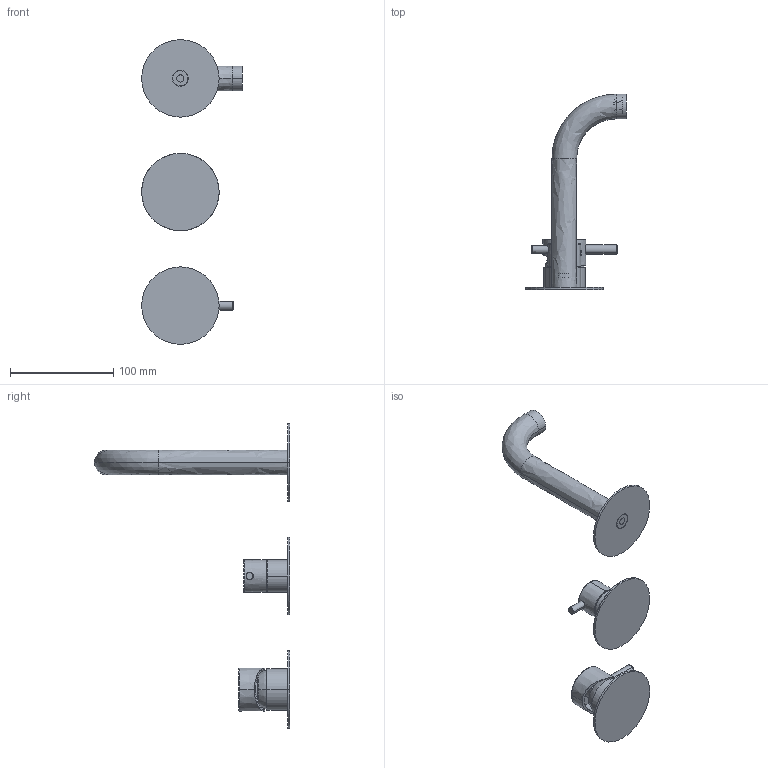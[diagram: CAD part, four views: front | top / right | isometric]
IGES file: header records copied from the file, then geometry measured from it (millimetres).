
Start section:  PTC IGES file: 3d_sw0002.igs
Global section: file name: 3d_sw0002.igs; native system: Creo Parametric by PTC Inc.; preprocessor: 2022014; author: volponeff; organization: Unknown; date: 20241002.113452; units: millimetre
Bounding box: 97.5 x 189 x 295 mm (x, y, z)
Surface area: 89186.5 mm2 (no closed solid volume)
Topology: 0 solids, 0 shells, 368 faces, 1860 edges, 1854 vertices
Faces by surface type: revolution 204, bspline 164
